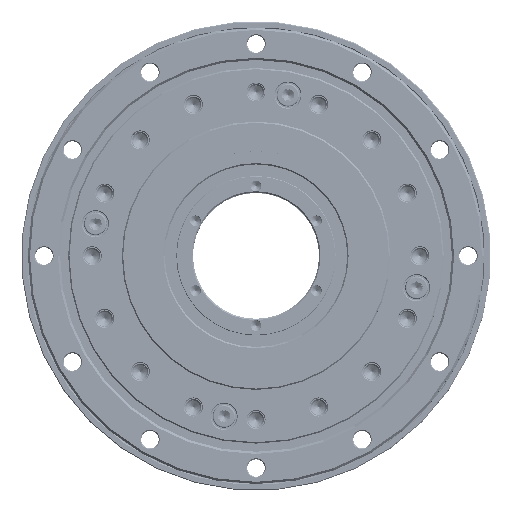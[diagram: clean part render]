
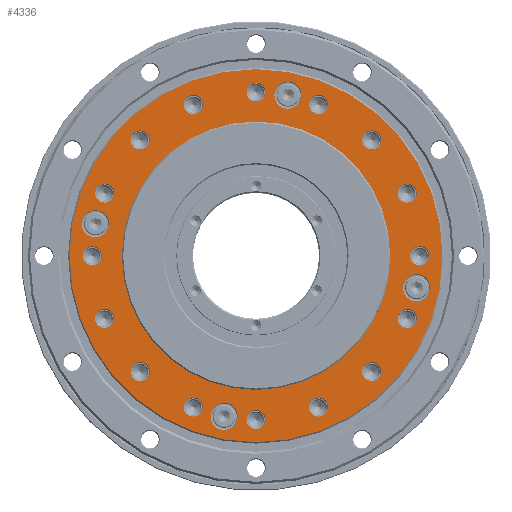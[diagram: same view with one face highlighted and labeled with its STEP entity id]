
A CAD part, top view. The second image highlights one B-rep face of the part: STEP entity #4336.
In plain terms, the highlighted planar face has unit normal (0, 0, 1).
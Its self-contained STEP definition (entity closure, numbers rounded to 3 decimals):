
#4336=ADVANCED_FACE('',(#6127,#6128,#6129,#6130,#6131,#6132,#6133,#6134,
#6135,#6136,#6137,#6138,#6139,#6140,#6141,#6142,#6143,#6144,#6145,#6146,
#6147,#6148),#4812,.T.);
#4812=PLANE('',#17865);
#6127=FACE_BOUND('',#8159,.T.);
#6128=FACE_BOUND('',#8160,.T.);
#6129=FACE_BOUND('',#8161,.T.);
#6130=FACE_BOUND('',#8162,.T.);
#6131=FACE_BOUND('',#8163,.T.);
#6132=FACE_BOUND('',#8164,.T.);
#6133=FACE_BOUND('',#8165,.T.);
#6134=FACE_BOUND('',#8166,.T.);
#6135=FACE_BOUND('',#8167,.T.);
#6136=FACE_BOUND('',#8168,.T.);
#6137=FACE_BOUND('',#8169,.T.);
#6138=FACE_BOUND('',#8170,.T.);
#6139=FACE_BOUND('',#8171,.T.);
#6140=FACE_BOUND('',#8172,.T.);
#6141=FACE_BOUND('',#8173,.T.);
#6142=FACE_BOUND('',#8174,.T.);
#6143=FACE_BOUND('',#8175,.T.);
#6144=FACE_BOUND('',#8176,.T.);
#6145=FACE_BOUND('',#8177,.T.);
#6146=FACE_BOUND('',#8178,.T.);
#6147=FACE_BOUND('',#8179,.T.);
#6148=FACE_BOUND('',#8180,.T.);
#8159=EDGE_LOOP('',(#11293));
#8160=EDGE_LOOP('',(#11294));
#8161=EDGE_LOOP('',(#11295));
#8162=EDGE_LOOP('',(#11296));
#8163=EDGE_LOOP('',(#11297));
#8164=EDGE_LOOP('',(#11298));
#8165=EDGE_LOOP('',(#11299));
#8166=EDGE_LOOP('',(#11300));
#8167=EDGE_LOOP('',(#11301));
#8168=EDGE_LOOP('',(#11302));
#8169=EDGE_LOOP('',(#11303));
#8170=EDGE_LOOP('',(#11304));
#8171=EDGE_LOOP('',(#11305));
#8172=EDGE_LOOP('',(#11306));
#8173=EDGE_LOOP('',(#11307));
#8174=EDGE_LOOP('',(#11308));
#8175=EDGE_LOOP('',(#11309));
#8176=EDGE_LOOP('',(#11310));
#8177=EDGE_LOOP('',(#11311));
#8178=EDGE_LOOP('',(#11312));
#8179=EDGE_LOOP('',(#11313));
#8180=EDGE_LOOP('',(#11314));
#11293=ORIENTED_EDGE('',*,*,#14650,.T.);
#11294=ORIENTED_EDGE('',*,*,#14651,.T.);
#11295=ORIENTED_EDGE('',*,*,#14652,.T.);
#11296=ORIENTED_EDGE('',*,*,#14653,.T.);
#11297=ORIENTED_EDGE('',*,*,#14654,.T.);
#11298=ORIENTED_EDGE('',*,*,#14655,.T.);
#11299=ORIENTED_EDGE('',*,*,#14656,.T.);
#11300=ORIENTED_EDGE('',*,*,#14657,.T.);
#11301=ORIENTED_EDGE('',*,*,#14658,.T.);
#11302=ORIENTED_EDGE('',*,*,#14659,.T.);
#11303=ORIENTED_EDGE('',*,*,#14660,.T.);
#11304=ORIENTED_EDGE('',*,*,#14661,.T.);
#11305=ORIENTED_EDGE('',*,*,#14662,.T.);
#11306=ORIENTED_EDGE('',*,*,#14663,.T.);
#11307=ORIENTED_EDGE('',*,*,#14664,.T.);
#11308=ORIENTED_EDGE('',*,*,#14665,.T.);
#11309=ORIENTED_EDGE('',*,*,#14666,.T.);
#11310=ORIENTED_EDGE('',*,*,#14667,.T.);
#11311=ORIENTED_EDGE('',*,*,#14668,.T.);
#11312=ORIENTED_EDGE('',*,*,#14669,.T.);
#11313=ORIENTED_EDGE('',*,*,#14670,.T.);
#11314=ORIENTED_EDGE('',*,*,#14671,.T.);
#13030=VERTEX_POINT('',#67037);
#13031=VERTEX_POINT('',#67039);
#13032=VERTEX_POINT('',#67041);
#13033=VERTEX_POINT('',#67043);
#13034=VERTEX_POINT('',#67045);
#13035=VERTEX_POINT('',#67047);
#13036=VERTEX_POINT('',#67049);
#13037=VERTEX_POINT('',#67051);
#13038=VERTEX_POINT('',#67053);
#13039=VERTEX_POINT('',#67055);
#13040=VERTEX_POINT('',#67057);
#13041=VERTEX_POINT('',#67059);
#13042=VERTEX_POINT('',#67061);
#13043=VERTEX_POINT('',#67063);
#13044=VERTEX_POINT('',#67065);
#13045=VERTEX_POINT('',#67067);
#13046=VERTEX_POINT('',#67069);
#13047=VERTEX_POINT('',#67071);
#13048=VERTEX_POINT('',#67073);
#13049=VERTEX_POINT('',#67075);
#13050=VERTEX_POINT('',#67077);
#13051=VERTEX_POINT('',#67079);
#14650=EDGE_CURVE('',#13030,#13030,#15867,.T.);
#14651=EDGE_CURVE('',#13031,#13031,#15868,.T.);
#14652=EDGE_CURVE('',#13032,#13032,#15869,.T.);
#14653=EDGE_CURVE('',#13033,#13033,#15870,.T.);
#14654=EDGE_CURVE('',#13034,#13034,#15871,.T.);
#14655=EDGE_CURVE('',#13035,#13035,#15872,.T.);
#14656=EDGE_CURVE('',#13036,#13036,#15873,.T.);
#14657=EDGE_CURVE('',#13037,#13037,#15874,.T.);
#14658=EDGE_CURVE('',#13038,#13038,#15875,.T.);
#14659=EDGE_CURVE('',#13039,#13039,#15876,.T.);
#14660=EDGE_CURVE('',#13040,#13040,#15877,.T.);
#14661=EDGE_CURVE('',#13041,#13041,#15878,.T.);
#14662=EDGE_CURVE('',#13042,#13042,#15879,.T.);
#14663=EDGE_CURVE('',#13043,#13043,#15880,.T.);
#14664=EDGE_CURVE('',#13044,#13044,#15881,.T.);
#14665=EDGE_CURVE('',#13045,#13045,#15882,.T.);
#14666=EDGE_CURVE('',#13046,#13046,#15883,.T.);
#14667=EDGE_CURVE('',#13047,#13047,#15884,.T.);
#14668=EDGE_CURVE('',#13048,#13048,#15885,.T.);
#14669=EDGE_CURVE('',#13049,#13049,#15886,.T.);
#14670=EDGE_CURVE('',#13050,#13050,#15887,.T.);
#14671=EDGE_CURVE('',#13051,#13051,#15888,.T.);
#15867=CIRCLE('',#17843,5.05);
#15868=CIRCLE('',#17844,5.05);
#15869=CIRCLE('',#17845,5.05);
#15870=CIRCLE('',#17846,5.05);
#15871=CIRCLE('',#17847,3.55);
#15872=CIRCLE('',#17848,3.55);
#15873=CIRCLE('',#17849,3.55);
#15874=CIRCLE('',#17850,3.55);
#15875=CIRCLE('',#17851,3.55);
#15876=CIRCLE('',#17852,3.55);
#15877=CIRCLE('',#17853,3.55);
#15878=CIRCLE('',#17854,3.55);
#15879=CIRCLE('',#17855,3.55);
#15880=CIRCLE('',#17856,3.55);
#15881=CIRCLE('',#17857,3.55);
#15882=CIRCLE('',#17858,3.55);
#15883=CIRCLE('',#17859,3.55);
#15884=CIRCLE('',#17860,3.55);
#15885=CIRCLE('',#17861,3.55);
#15886=CIRCLE('',#17862,3.55);
#15887=CIRCLE('',#17863,69.5);
#15888=CIRCLE('',#17864,50.);
#17843=AXIS2_PLACEMENT_3D('',#67036,#22046,#22047);
#17844=AXIS2_PLACEMENT_3D('',#67038,#22048,#22049);
#17845=AXIS2_PLACEMENT_3D('',#67040,#22050,#22051);
#17846=AXIS2_PLACEMENT_3D('',#67042,#22052,#22053);
#17847=AXIS2_PLACEMENT_3D('',#67044,#22054,#22055);
#17848=AXIS2_PLACEMENT_3D('',#67046,#22056,#22057);
#17849=AXIS2_PLACEMENT_3D('',#67048,#22058,#22059);
#17850=AXIS2_PLACEMENT_3D('',#67050,#22060,#22061);
#17851=AXIS2_PLACEMENT_3D('',#67052,#22062,#22063);
#17852=AXIS2_PLACEMENT_3D('',#67054,#22064,#22065);
#17853=AXIS2_PLACEMENT_3D('',#67056,#22066,#22067);
#17854=AXIS2_PLACEMENT_3D('',#67058,#22068,#22069);
#17855=AXIS2_PLACEMENT_3D('',#67060,#22070,#22071);
#17856=AXIS2_PLACEMENT_3D('',#67062,#22072,#22073);
#17857=AXIS2_PLACEMENT_3D('',#67064,#22074,#22075);
#17858=AXIS2_PLACEMENT_3D('',#67066,#22076,#22077);
#17859=AXIS2_PLACEMENT_3D('',#67068,#22078,#22079);
#17860=AXIS2_PLACEMENT_3D('',#67070,#22080,#22081);
#17861=AXIS2_PLACEMENT_3D('',#67072,#22082,#22083);
#17862=AXIS2_PLACEMENT_3D('',#67074,#22084,#22085);
#17863=AXIS2_PLACEMENT_3D('',#67076,#22086,#22087);
#17864=AXIS2_PLACEMENT_3D('',#67078,#22088,#22089);
#17865=AXIS2_PLACEMENT_3D('',#67080,#22090,#22091);
#22046=DIRECTION('',(0.,0.,-1.));
#22047=DIRECTION('',(1.,0.,0.));
#22048=DIRECTION('',(0.,0.,-1.));
#22049=DIRECTION('',(1.,0.,0.));
#22050=DIRECTION('',(0.,0.,-1.));
#22051=DIRECTION('',(1.,0.,0.));
#22052=DIRECTION('',(0.,0.,-1.));
#22053=DIRECTION('',(1.,0.,0.));
#22054=DIRECTION('',(0.,0.,-1.));
#22055=DIRECTION('',(1.,0.,0.));
#22056=DIRECTION('',(0.,0.,-1.));
#22057=DIRECTION('',(1.,0.,0.));
#22058=DIRECTION('',(0.,0.,-1.));
#22059=DIRECTION('',(1.,0.,0.));
#22060=DIRECTION('',(0.,0.,-1.));
#22061=DIRECTION('',(1.,0.,0.));
#22062=DIRECTION('',(0.,0.,-1.));
#22063=DIRECTION('',(1.,0.,0.));
#22064=DIRECTION('',(0.,0.,-1.));
#22065=DIRECTION('',(1.,0.,0.));
#22066=DIRECTION('',(0.,0.,-1.));
#22067=DIRECTION('',(1.,0.,0.));
#22068=DIRECTION('',(0.,0.,-1.));
#22069=DIRECTION('',(1.,0.,0.));
#22070=DIRECTION('',(0.,0.,-1.));
#22071=DIRECTION('',(1.,0.,0.));
#22072=DIRECTION('',(0.,0.,-1.));
#22073=DIRECTION('',(1.,0.,0.));
#22074=DIRECTION('',(0.,0.,-1.));
#22075=DIRECTION('',(1.,0.,0.));
#22076=DIRECTION('',(0.,0.,-1.));
#22077=DIRECTION('',(1.,0.,0.));
#22078=DIRECTION('',(0.,0.,-1.));
#22079=DIRECTION('',(1.,0.,0.));
#22080=DIRECTION('',(0.,0.,-1.));
#22081=DIRECTION('',(1.,0.,0.));
#22082=DIRECTION('',(0.,0.,-1.));
#22083=DIRECTION('',(1.,0.,0.));
#22084=DIRECTION('',(0.,0.,-1.));
#22085=DIRECTION('',(1.,0.,0.));
#22086=DIRECTION('',(0.,0.,1.));
#22087=DIRECTION('',(1.,0.,0.));
#22088=DIRECTION('',(0.,0.,-1.));
#22089=DIRECTION('',(-1.,0.,0.));
#22090=DIRECTION('',(0.,0.,1.));
#22091=DIRECTION('',(1.,0.,0.));
#67036=CARTESIAN_POINT('',(-59.828,11.901,13.));
#67037=CARTESIAN_POINT('',(-54.778,11.901,13.));
#67038=CARTESIAN_POINT('',(11.901,59.828,13.));
#67039=CARTESIAN_POINT('',(16.951,59.828,13.));
#67040=CARTESIAN_POINT('',(59.828,-11.901,13.));
#67041=CARTESIAN_POINT('',(64.878,-11.901,13.));
#67042=CARTESIAN_POINT('',(-11.901,-59.828,13.));
#67043=CARTESIAN_POINT('',(-6.851,-59.828,13.));
#67044=CARTESIAN_POINT('',(-43.134,-43.134,13.));
#67045=CARTESIAN_POINT('',(-39.584,-43.134,13.));
#67046=CARTESIAN_POINT('',(-56.357,-23.344,13.));
#67047=CARTESIAN_POINT('',(-52.807,-23.344,13.));
#67048=CARTESIAN_POINT('',(-61.,0.,13.));
#67049=CARTESIAN_POINT('',(-57.45,0.,13.));
#67050=CARTESIAN_POINT('',(-56.357,23.344,13.));
#67051=CARTESIAN_POINT('',(-52.807,23.344,13.));
#67052=CARTESIAN_POINT('',(-43.134,43.134,13.));
#67053=CARTESIAN_POINT('',(-39.584,43.134,13.));
#67054=CARTESIAN_POINT('',(-23.344,56.357,13.));
#67055=CARTESIAN_POINT('',(-19.794,56.357,13.));
#67056=CARTESIAN_POINT('',(0.,61.,13.));
#67057=CARTESIAN_POINT('',(3.55,61.,13.));
#67058=CARTESIAN_POINT('',(23.344,56.357,13.));
#67059=CARTESIAN_POINT('',(26.894,56.357,13.));
#67060=CARTESIAN_POINT('',(43.134,43.134,13.));
#67061=CARTESIAN_POINT('',(46.684,43.134,13.));
#67062=CARTESIAN_POINT('',(56.357,23.344,13.));
#67063=CARTESIAN_POINT('',(59.907,23.344,13.));
#67064=CARTESIAN_POINT('',(61.,0.,13.));
#67065=CARTESIAN_POINT('',(64.55,0.,13.));
#67066=CARTESIAN_POINT('',(56.357,-23.344,13.));
#67067=CARTESIAN_POINT('',(59.907,-23.344,13.));
#67068=CARTESIAN_POINT('',(43.134,-43.134,13.));
#67069=CARTESIAN_POINT('',(46.684,-43.134,13.));
#67070=CARTESIAN_POINT('',(23.344,-56.357,13.));
#67071=CARTESIAN_POINT('',(26.894,-56.357,13.));
#67072=CARTESIAN_POINT('',(0.,-61.,13.));
#67073=CARTESIAN_POINT('',(3.55,-61.,13.));
#67074=CARTESIAN_POINT('',(-23.344,-56.357,13.));
#67075=CARTESIAN_POINT('',(-19.794,-56.357,13.));
#67076=CARTESIAN_POINT('',(0.,0.,13.));
#67077=CARTESIAN_POINT('',(69.5,0.,13.));
#67078=CARTESIAN_POINT('',(0.,0.,13.));
#67079=CARTESIAN_POINT('',(-50.,0.,13.));
#67080=CARTESIAN_POINT('',(70.,0.,13.));
